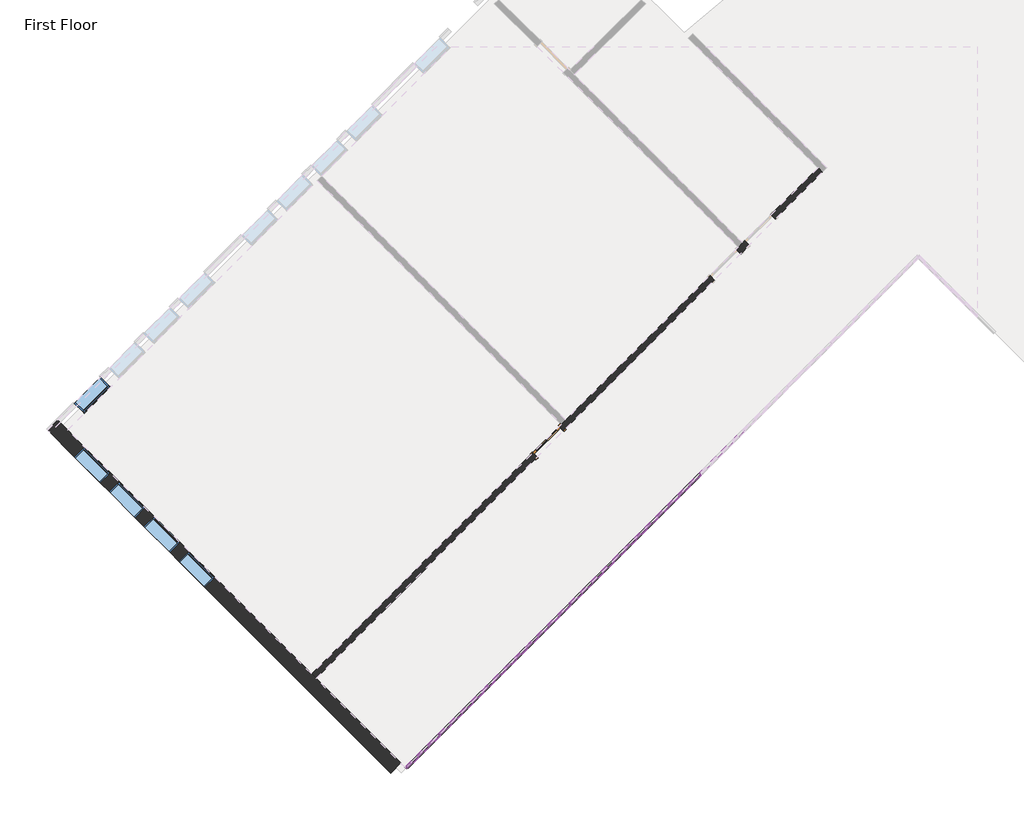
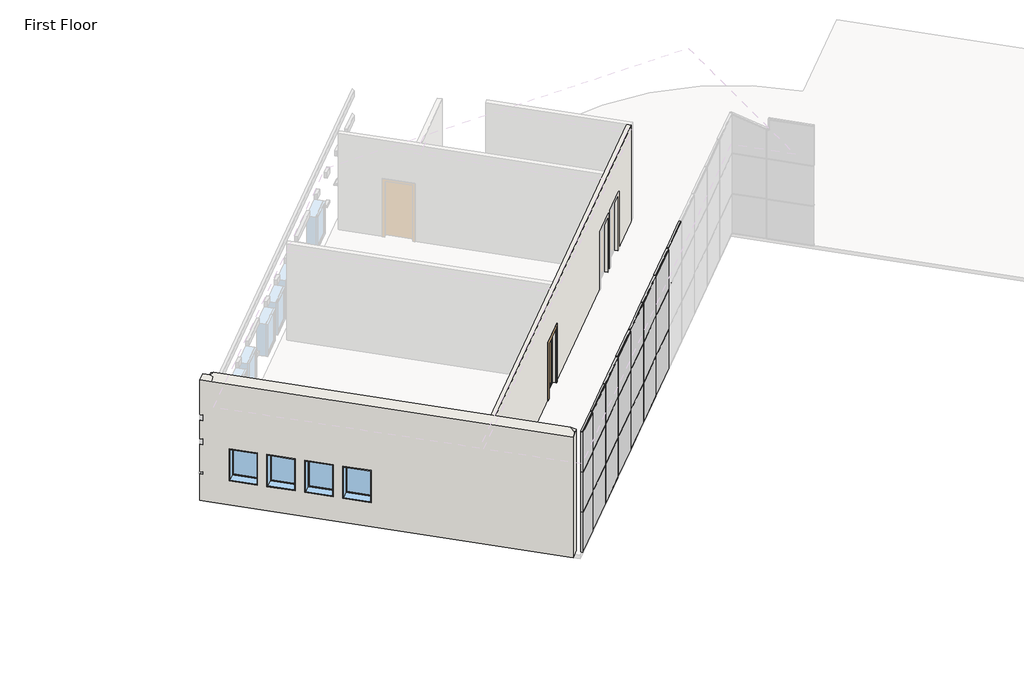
# One storey, part 1 of 5: 55 members, 21 plates, 5 windows, 2 walls, 1 door.
"""IFC4 building model written with IfcOpenShell, lengths in millimetres."""

from ifc_helpers import new_model, si_unit, origin, place, context, project, spatial, faceted_brep, transform, mapped, element, save
from components import door_b81abb0e, member_bd80eb51, member_155beb68, member_42be4715, member_6121af53, member_a3731390, member_b87a50da, system_panel_glazed_da345f4e, system_panel_glazed_b4114ee2, system_panel_glazed_f1e4c5b0, system_panel_glazed_dc791129, system_panel_solid_2f1037e2, system_panel_solid_6e0f4c8d, window_15c49d37, window_0e2fc6ce

model = new_model("IFC4")

# Units and contexts
model_context = context("Model", 3, world=origin())
ifc_project = project(units=[si_unit("LENGTHUNIT", "METRE", prefix="MILLI")], contexts=[model_context])

# Site, building, storey
site = spatial("IfcSite", under=ifc_project)
building = spatial("IfcBuilding", under=site)
storey = spatial("IfcBuildingStorey", under=building, Name="First Floor", Elevation=0.0)

# Door
placement = place(None, origin())
door_shape = door_b81abb0e(model_context)
element("IfcDoor", 1, ObjectType="Single-Glass 1 : 36\" x 84\"", at=placement, inside=storey, context=model_context, shape_type="MappedRepresentation", body=[
    mapped(door_shape, transform((-12027.7718255, -1647.4849877, 0.0), x_axis=(0.7071067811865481, 0.7071067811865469, 0.0), y_axis=(-0.7071067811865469, 0.7071067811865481, 0.0), z_axis=(0.0, 0.0, 1.0))),
])

# Members
member_shape = member_bd80eb51(model_context)
element("IfcMember", 2, ObjectType="Rectangular Mullion : 1.5\" x 2.5\" Rectangular", at=placement, inside=storey, context=model_context, shape_type="MappedRepresentation", body=[
    mapped(member_shape, transform((-15523.4543029, -9702.8925106, 4572.0), x_axis=(0.0, 0.0, 1.0), y_axis=(-0.7071067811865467, 0.7071067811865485, 0.0), z_axis=(-0.7071067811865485, -0.7071067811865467, 0.0))),
])
member_2_shape = member_155beb68(model_context)
element("IfcMember", 3, ObjectType="Rectangular Mullion : 1.5\" x 2.5\" Rectangular", at=placement, inside=storey, context=model_context, shape_type="MappedRepresentation", body=[
    mapped(member_2_shape, transform((-8256.1820369, -2435.6202446, 0.0), x_axis=(-0.7071067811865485, -0.7071067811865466, 0.0), y_axis=(-0.7071067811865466, 0.7071067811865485, 0.0), z_axis=(0.0, 0.0, -1.0))),
])
element("IfcMember", 4, ObjectType="Rectangular Mullion : 1.5\" x 2.5\" Rectangular", at=placement, inside=storey, context=model_context, shape_type="MappedRepresentation", body=[
    mapped(member_2_shape, transform((-9333.8127715, -3513.2509792, 0.0), x_axis=(-0.7071067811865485, -0.7071067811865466, 0.0), y_axis=(-0.7071067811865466, 0.7071067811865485, 0.0), z_axis=(0.0, 0.0, -1.0))),
])
element("IfcMember", 5, ObjectType="Rectangular Mullion : 1.5\" x 2.5\" Rectangular", at=placement, inside=storey, context=model_context, shape_type="MappedRepresentation", body=[
    mapped(member_2_shape, transform((-10411.443506, -4590.8817137, 0.0), x_axis=(-0.7071067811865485, -0.7071067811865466, 0.0), y_axis=(-0.7071067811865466, 0.7071067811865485, 0.0), z_axis=(0.0, 0.0, -1.0))),
])
element("IfcMember", 6, ObjectType="Rectangular Mullion : 1.5\" x 2.5\" Rectangular", at=placement, inside=storey, context=model_context, shape_type="MappedRepresentation", body=[
    mapped(member_2_shape, transform((-11489.0742405, -5668.5124482, 0.0), x_axis=(-0.7071067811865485, -0.7071067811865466, 0.0), y_axis=(-0.7071067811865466, 0.7071067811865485, 0.0), z_axis=(0.0, 0.0, -1.0))),
])
element("IfcMember", 7, ObjectType="Rectangular Mullion : 1.5\" x 2.5\" Rectangular", at=placement, inside=storey, context=model_context, shape_type="MappedRepresentation", body=[
    mapped(member_2_shape, transform((-12566.7049751, -6746.1431827, 0.0), x_axis=(-0.7071067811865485, -0.7071067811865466, 0.0), y_axis=(-0.7071067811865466, 0.7071067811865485, 0.0), z_axis=(0.0, 0.0, -1.0))),
])
element("IfcMember", 8, ObjectType="Rectangular Mullion : 1.5\" x 2.5\" Rectangular", at=placement, inside=storey, context=model_context, shape_type="MappedRepresentation", body=[
    mapped(member_2_shape, transform((-13644.3357096, -7823.7739173, 0.0), x_axis=(-0.7071067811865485, -0.7071067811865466, 0.0), y_axis=(-0.7071067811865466, 0.7071067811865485, 0.0), z_axis=(0.0, 0.0, -1.0))),
])
element("IfcMember", 9, ObjectType="Rectangular Mullion : 1.5\" x 2.5\" Rectangular", at=placement, inside=storey, context=model_context, shape_type="MappedRepresentation", body=[
    mapped(member_2_shape, transform((-14721.9664441, -8901.4046518, 0.0), x_axis=(-0.7071067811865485, -0.7071067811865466, 0.0), y_axis=(-0.7071067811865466, 0.7071067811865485, 0.0), z_axis=(0.0, 0.0, -1.0))),
])
element("IfcMember", 10, ObjectType="Rectangular Mullion : 1.5\" x 2.5\" Rectangular", at=placement, inside=storey, context=model_context, shape_type="MappedRepresentation", body=[
    mapped(member_2_shape, transform((-8256.1820369, -2435.6202446, 3048.0), x_axis=(-0.7071067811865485, -0.7071067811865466, 0.0), y_axis=(-0.7071067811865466, 0.7071067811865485, 0.0), z_axis=(0.0, 0.0, -1.0))),
])
element("IfcMember", 11, ObjectType="Rectangular Mullion : 1.5\" x 2.5\" Rectangular", at=placement, inside=storey, context=model_context, shape_type="MappedRepresentation", body=[
    mapped(member_2_shape, transform((-9333.8127715, -3513.2509792, 3048.0), x_axis=(-0.7071067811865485, -0.7071067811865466, 0.0), y_axis=(-0.7071067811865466, 0.7071067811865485, 0.0), z_axis=(0.0, 0.0, -1.0))),
])
element("IfcMember", 12, ObjectType="Rectangular Mullion : 1.5\" x 2.5\" Rectangular", at=placement, inside=storey, context=model_context, shape_type="MappedRepresentation", body=[
    mapped(member_2_shape, transform((-10411.443506, -4590.8817137, 3048.0), x_axis=(-0.7071067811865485, -0.7071067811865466, 0.0), y_axis=(-0.7071067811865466, 0.7071067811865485, 0.0), z_axis=(0.0, 0.0, -1.0))),
])
element("IfcMember", 13, ObjectType="Rectangular Mullion : 1.5\" x 2.5\" Rectangular", at=placement, inside=storey, context=model_context, shape_type="MappedRepresentation", body=[
    mapped(member_2_shape, transform((-11489.0742405, -5668.5124482, 3048.0), x_axis=(-0.7071067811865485, -0.7071067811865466, 0.0), y_axis=(-0.7071067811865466, 0.7071067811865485, 0.0), z_axis=(0.0, 0.0, -1.0))),
])
element("IfcMember", 14, ObjectType="Rectangular Mullion : 1.5\" x 2.5\" Rectangular", at=placement, inside=storey, context=model_context, shape_type="MappedRepresentation", body=[
    mapped(member_2_shape, transform((-12566.7049751, -6746.1431827, 3048.0), x_axis=(-0.7071067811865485, -0.7071067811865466, 0.0), y_axis=(-0.7071067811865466, 0.7071067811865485, 0.0), z_axis=(0.0, 0.0, -1.0))),
])
element("IfcMember", 15, ObjectType="Rectangular Mullion : 1.5\" x 2.5\" Rectangular", at=placement, inside=storey, context=model_context, shape_type="MappedRepresentation", body=[
    mapped(member_2_shape, transform((-13644.3357096, -7823.7739173, 3048.0), x_axis=(-0.7071067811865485, -0.7071067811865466, 0.0), y_axis=(-0.7071067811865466, 0.7071067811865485, 0.0), z_axis=(0.0, 0.0, -1.0))),
])
element("IfcMember", 16, ObjectType="Rectangular Mullion : 1.5\" x 2.5\" Rectangular", at=placement, inside=storey, context=model_context, shape_type="MappedRepresentation", body=[
    mapped(member_2_shape, transform((-14721.9664441, -8901.4046518, 3048.0), x_axis=(-0.7071067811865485, -0.7071067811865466, 0.0), y_axis=(-0.7071067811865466, 0.7071067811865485, 0.0), z_axis=(0.0, 0.0, -1.0))),
])
element("IfcMember", 17, ObjectType="Rectangular Mullion : 1.5\" x 2.5\" Rectangular", at=placement, inside=storey, context=model_context, shape_type="MappedRepresentation", body=[
    mapped(member_2_shape, transform((-8256.1820369, -2435.6202446, 1524.0), x_axis=(-0.7071067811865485, -0.7071067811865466, 0.0), y_axis=(-0.7071067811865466, 0.7071067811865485, 0.0), z_axis=(0.0, 0.0, -1.0))),
])
element("IfcMember", 18, ObjectType="Rectangular Mullion : 1.5\" x 2.5\" Rectangular", at=placement, inside=storey, context=model_context, shape_type="MappedRepresentation", body=[
    mapped(member_2_shape, transform((-9333.8127715, -3513.2509792, 1524.0), x_axis=(-0.7071067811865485, -0.7071067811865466, 0.0), y_axis=(-0.7071067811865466, 0.7071067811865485, 0.0), z_axis=(0.0, 0.0, -1.0))),
])
element("IfcMember", 19, ObjectType="Rectangular Mullion : 1.5\" x 2.5\" Rectangular", at=placement, inside=storey, context=model_context, shape_type="MappedRepresentation", body=[
    mapped(member_2_shape, transform((-10411.443506, -4590.8817137, 1524.0), x_axis=(-0.7071067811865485, -0.7071067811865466, 0.0), y_axis=(-0.7071067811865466, 0.7071067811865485, 0.0), z_axis=(0.0, 0.0, -1.0))),
])
element("IfcMember", 20, ObjectType="Rectangular Mullion : 1.5\" x 2.5\" Rectangular", at=placement, inside=storey, context=model_context, shape_type="MappedRepresentation", body=[
    mapped(member_2_shape, transform((-11489.0742405, -5668.5124482, 1524.0), x_axis=(-0.7071067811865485, -0.7071067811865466, 0.0), y_axis=(-0.7071067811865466, 0.7071067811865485, 0.0), z_axis=(0.0, 0.0, -1.0))),
])
element("IfcMember", 21, ObjectType="Rectangular Mullion : 1.5\" x 2.5\" Rectangular", at=placement, inside=storey, context=model_context, shape_type="MappedRepresentation", body=[
    mapped(member_2_shape, transform((-12566.7049751, -6746.1431827, 1524.0), x_axis=(-0.7071067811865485, -0.7071067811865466, 0.0), y_axis=(-0.7071067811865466, 0.7071067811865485, 0.0), z_axis=(0.0, 0.0, -1.0))),
])
element("IfcMember", 22, ObjectType="Rectangular Mullion : 1.5\" x 2.5\" Rectangular", at=placement, inside=storey, context=model_context, shape_type="MappedRepresentation", body=[
    mapped(member_2_shape, transform((-13644.3357096, -7823.7739173, 1524.0), x_axis=(-0.7071067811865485, -0.7071067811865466, 0.0), y_axis=(-0.7071067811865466, 0.7071067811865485, 0.0), z_axis=(0.0, 0.0, -1.0))),
])
element("IfcMember", 23, ObjectType="Rectangular Mullion : 1.5\" x 2.5\" Rectangular", at=placement, inside=storey, context=model_context, shape_type="MappedRepresentation", body=[
    mapped(member_2_shape, transform((-14721.9664441, -8901.4046518, 1524.0), x_axis=(-0.7071067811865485, -0.7071067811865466, 0.0), y_axis=(-0.7071067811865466, 0.7071067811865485, 0.0), z_axis=(0.0, 0.0, -1.0))),
])
member_3_shape = member_42be4715(model_context)
element("IfcMember", 24, ObjectType="Rectangular Mullion : 1.5\" x 2.5\" Rectangular", at=placement, inside=storey, context=model_context, shape_type="MappedRepresentation", body=[
    mapped(member_3_shape, transform((-8242.7116528, -2422.1498604, 1524.0), x_axis=(0.0, 0.0, 1.0), y_axis=(-0.7071067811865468, 0.7071067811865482, 0.0), z_axis=(-0.7071067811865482, -0.7071067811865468, 0.0))),
])
element("IfcMember", 25, ObjectType="Rectangular Mullion : 1.5\" x 2.5\" Rectangular", at=placement, inside=storey, context=model_context, shape_type="MappedRepresentation", body=[
    mapped(member_3_shape, transform((-9320.3423873, -3499.780595, 1524.0), x_axis=(0.0, 0.0, 1.0), y_axis=(-0.7071067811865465, 0.7071067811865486, 0.0), z_axis=(-0.7071067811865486, -0.7071067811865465, 0.0))),
])
element("IfcMember", 26, ObjectType="Rectangular Mullion : 1.5\" x 2.5\" Rectangular", at=placement, inside=storey, context=model_context, shape_type="MappedRepresentation", body=[
    mapped(member_3_shape, transform((-10397.9731218, -4577.4113295, 1524.0), x_axis=(0.0, 0.0, 1.0), y_axis=(-0.7071067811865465, 0.7071067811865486, 0.0), z_axis=(-0.7071067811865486, -0.7071067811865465, 0.0))),
])
element("IfcMember", 27, ObjectType="Rectangular Mullion : 1.5\" x 2.5\" Rectangular", at=placement, inside=storey, context=model_context, shape_type="MappedRepresentation", body=[
    mapped(member_3_shape, transform((-11475.6038564, -5655.042064, 1524.0), x_axis=(0.0, 0.0, 1.0), y_axis=(-0.7071067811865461, 0.707106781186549, 0.0), z_axis=(-0.7071067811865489, -0.707106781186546, 0.0))),
])
element("IfcMember", 28, ObjectType="Rectangular Mullion : 1.5\" x 2.5\" Rectangular", at=placement, inside=storey, context=model_context, shape_type="MappedRepresentation", body=[
    mapped(member_3_shape, transform((-12553.2345909, -6732.6727986, 1524.0), x_axis=(0.0, 0.0, 1.0), y_axis=(-0.7071067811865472, 0.7071067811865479, 0.0), z_axis=(-0.7071067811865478, -0.7071067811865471, 0.0))),
])
element("IfcMember", 29, ObjectType="Rectangular Mullion : 1.5\" x 2.5\" Rectangular", at=placement, inside=storey, context=model_context, shape_type="MappedRepresentation", body=[
    mapped(member_3_shape, transform((-13630.8653254, -7810.3035331, 1524.0), x_axis=(0.0, 0.0, 1.0), y_axis=(-0.7071067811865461, 0.707106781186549, 0.0), z_axis=(-0.707106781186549, -0.7071067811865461, 0.0))),
])
element("IfcMember", 30, ObjectType="Rectangular Mullion : 1.5\" x 2.5\" Rectangular", at=placement, inside=storey, context=model_context, shape_type="MappedRepresentation", body=[
    mapped(member_3_shape, transform((-14708.4960599, -8887.9342676, 1524.0), x_axis=(0.0, 0.0, 1.0), y_axis=(-0.7071067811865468, 0.7071067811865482, 0.0), z_axis=(-0.7071067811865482, -0.7071067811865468, 0.0))),
])
element("IfcMember", 31, ObjectType="Rectangular Mullion : 1.5\" x 2.5\" Rectangular", at=placement, inside=storey, context=model_context, shape_type="MappedRepresentation", body=[
    mapped(member_3_shape, transform((-8242.7116528, -2422.1498604, 3048.0), x_axis=(0.0, 0.0, 1.0), y_axis=(-0.7071067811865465, 0.7071067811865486, 0.0), z_axis=(-0.7071067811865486, -0.7071067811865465, 0.0))),
])
element("IfcMember", 32, ObjectType="Rectangular Mullion : 1.5\" x 2.5\" Rectangular", at=placement, inside=storey, context=model_context, shape_type="MappedRepresentation", body=[
    mapped(member_3_shape, transform((-9320.3423873, -3499.780595, 3048.0), x_axis=(0.0, 0.0, 1.0), y_axis=(-0.7071067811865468, 0.7071067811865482, 0.0), z_axis=(-0.7071067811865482, -0.7071067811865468, 0.0))),
])
element("IfcMember", 33, ObjectType="Rectangular Mullion : 1.5\" x 2.5\" Rectangular", at=placement, inside=storey, context=model_context, shape_type="MappedRepresentation", body=[
    mapped(member_3_shape, transform((-10397.9731218, -4577.4113295, 3048.0), x_axis=(0.0, 0.0, 1.0), y_axis=(-0.7071067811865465, 0.7071067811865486, 0.0), z_axis=(-0.7071067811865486, -0.7071067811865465, 0.0))),
])
element("IfcMember", 34, ObjectType="Rectangular Mullion : 1.5\" x 2.5\" Rectangular", at=placement, inside=storey, context=model_context, shape_type="MappedRepresentation", body=[
    mapped(member_3_shape, transform((-11475.6038564, -5655.042064, 3048.0), x_axis=(0.0, 0.0, 1.0), y_axis=(-0.7071067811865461, 0.707106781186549, 0.0), z_axis=(-0.7071067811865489, -0.707106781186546, 0.0))),
])
element("IfcMember", 35, ObjectType="Rectangular Mullion : 1.5\" x 2.5\" Rectangular", at=placement, inside=storey, context=model_context, shape_type="MappedRepresentation", body=[
    mapped(member_3_shape, transform((-12553.2345909, -6732.6727986, 3048.0), x_axis=(0.0, 0.0, 1.0), y_axis=(-0.7071067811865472, 0.7071067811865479, 0.0), z_axis=(-0.7071067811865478, -0.7071067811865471, 0.0))),
])
element("IfcMember", 36, ObjectType="Rectangular Mullion : 1.5\" x 2.5\" Rectangular", at=placement, inside=storey, context=model_context, shape_type="MappedRepresentation", body=[
    mapped(member_3_shape, transform((-13630.8653254, -7810.3035331, 3048.0), x_axis=(0.0, 0.0, 1.0), y_axis=(-0.7071067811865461, 0.707106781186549, 0.0), z_axis=(-0.707106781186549, -0.7071067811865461, 0.0))),
])
element("IfcMember", 37, ObjectType="Rectangular Mullion : 1.5\" x 2.5\" Rectangular", at=placement, inside=storey, context=model_context, shape_type="MappedRepresentation", body=[
    mapped(member_3_shape, transform((-14708.4960599, -8887.9342676, 3048.0), x_axis=(0.0, 0.0, 1.0), y_axis=(-0.7071067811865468, 0.7071067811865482, 0.0), z_axis=(-0.7071067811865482, -0.7071067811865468, 0.0))),
])
member_4_shape = member_6121af53(model_context)
element("IfcMember", 38, ObjectType="Rectangular Mullion : 1.5\" x 2.5\" Rectangular", at=placement, inside=storey, context=model_context, shape_type="MappedRepresentation", body=[
    mapped(member_4_shape, transform((-8269.6524211, -2449.0906288, 0.0), x_axis=(0.0, 0.0, -1.0), y_axis=(-0.7071067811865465, 0.7071067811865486, 0.0), z_axis=(0.7071067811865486, 0.7071067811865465, 0.0))),
])
element("IfcMember", 39, ObjectType="Rectangular Mullion : 1.5\" x 2.5\" Rectangular", at=placement, inside=storey, context=model_context, shape_type="MappedRepresentation", body=[
    mapped(member_4_shape, transform((-9347.2831557, -3526.7213633, 0.0), x_axis=(0.0, 0.0, -1.0), y_axis=(-0.7071067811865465, 0.7071067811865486, 0.0), z_axis=(0.7071067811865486, 0.7071067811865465, 0.0))),
])
element("IfcMember", 40, ObjectType="Rectangular Mullion : 1.5\" x 2.5\" Rectangular", at=placement, inside=storey, context=model_context, shape_type="MappedRepresentation", body=[
    mapped(member_4_shape, transform((-10424.9138902, -4604.3520979, 0.0), x_axis=(0.0, 0.0, -1.0), y_axis=(-0.7071067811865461, 0.707106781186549, 0.0), z_axis=(0.7071067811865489, 0.707106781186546, 0.0))),
])
element("IfcMember", 41, ObjectType="Rectangular Mullion : 1.5\" x 2.5\" Rectangular", at=placement, inside=storey, context=model_context, shape_type="MappedRepresentation", body=[
    mapped(member_4_shape, transform((-11502.5446247, -5681.9828324, 0.0), x_axis=(0.0, 0.0, -1.0), y_axis=(-0.7071067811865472, 0.7071067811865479, 0.0), z_axis=(0.7071067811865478, 0.7071067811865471, 0.0))),
])
element("IfcMember", 42, ObjectType="Rectangular Mullion : 1.5\" x 2.5\" Rectangular", at=placement, inside=storey, context=model_context, shape_type="MappedRepresentation", body=[
    mapped(member_4_shape, transform((-12580.1753592, -6759.6135669, 0.0), x_axis=(0.0, 0.0, -1.0), y_axis=(-0.7071067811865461, 0.707106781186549, 0.0), z_axis=(0.707106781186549, 0.7071067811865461, 0.0))),
])
element("IfcMember", 43, ObjectType="Rectangular Mullion : 1.5\" x 2.5\" Rectangular", at=placement, inside=storey, context=model_context, shape_type="MappedRepresentation", body=[
    mapped(member_4_shape, transform((-13657.8060938, -7837.2443014, 0.0), x_axis=(0.0, 0.0, -1.0), y_axis=(-0.7071067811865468, 0.7071067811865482, 0.0), z_axis=(0.7071067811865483, 0.7071067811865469, 0.0))),
])
element("IfcMember", 44, ObjectType="Rectangular Mullion : 1.5\" x 2.5\" Rectangular", at=placement, inside=storey, context=model_context, shape_type="MappedRepresentation", body=[
    mapped(member_shape, transform((-14735.4368283, -8914.875036, 0.0), x_axis=(0.0, 0.0, -1.0), y_axis=(-0.7071067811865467, 0.7071067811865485, 0.0), z_axis=(0.7071067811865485, 0.7071067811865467, 0.0))),
])
element("IfcMember", 45, ObjectType="Rectangular Mullion : 1.5\" x 2.5\" Rectangular", at=placement, inside=storey, context=model_context, shape_type="MappedRepresentation", body=[
    mapped(member_4_shape, transform((-8242.7116528, -2422.1498604, 4572.0), x_axis=(0.0, 0.0, 1.0), y_axis=(-0.7071067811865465, 0.7071067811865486, 0.0), z_axis=(-0.7071067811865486, -0.7071067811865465, 0.0))),
])
element("IfcMember", 46, ObjectType="Rectangular Mullion : 1.5\" x 2.5\" Rectangular", at=placement, inside=storey, context=model_context, shape_type="MappedRepresentation", body=[
    mapped(member_4_shape, transform((-9320.3423873, -3499.780595, 4572.0), x_axis=(0.0, 0.0, 1.0), y_axis=(-0.7071067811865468, 0.7071067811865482, 0.0), z_axis=(-0.7071067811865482, -0.7071067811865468, 0.0))),
])
element("IfcMember", 47, ObjectType="Rectangular Mullion : 1.5\" x 2.5\" Rectangular", at=placement, inside=storey, context=model_context, shape_type="MappedRepresentation", body=[
    mapped(member_4_shape, transform((-10397.9731218, -4577.4113295, 4572.0), x_axis=(0.0, 0.0, 1.0), y_axis=(-0.7071067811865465, 0.7071067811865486, 0.0), z_axis=(-0.7071067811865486, -0.7071067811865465, 0.0))),
])
element("IfcMember", 48, ObjectType="Rectangular Mullion : 1.5\" x 2.5\" Rectangular", at=placement, inside=storey, context=model_context, shape_type="MappedRepresentation", body=[
    mapped(member_4_shape, transform((-11475.6038564, -5655.042064, 4572.0), x_axis=(0.0, 0.0, 1.0), y_axis=(-0.7071067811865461, 0.707106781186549, 0.0), z_axis=(-0.7071067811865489, -0.707106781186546, 0.0))),
])
element("IfcMember", 49, ObjectType="Rectangular Mullion : 1.5\" x 2.5\" Rectangular", at=placement, inside=storey, context=model_context, shape_type="MappedRepresentation", body=[
    mapped(member_4_shape, transform((-12553.2345909, -6732.6727986, 4572.0), x_axis=(0.0, 0.0, 1.0), y_axis=(-0.7071067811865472, 0.7071067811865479, 0.0), z_axis=(-0.7071067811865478, -0.7071067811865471, 0.0))),
])
element("IfcMember", 50, ObjectType="Rectangular Mullion : 1.5\" x 2.5\" Rectangular", at=placement, inside=storey, context=model_context, shape_type="MappedRepresentation", body=[
    mapped(member_4_shape, transform((-13630.8653254, -7810.3035331, 4572.0), x_axis=(0.0, 0.0, 1.0), y_axis=(-0.7071067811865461, 0.707106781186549, 0.0), z_axis=(-0.707106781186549, -0.7071067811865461, 0.0))),
])
element("IfcMember", 51, ObjectType="Rectangular Mullion : 1.5\" x 2.5\" Rectangular", at=placement, inside=storey, context=model_context, shape_type="MappedRepresentation", body=[
    mapped(member_4_shape, transform((-14708.4960599, -8887.9342676, 4572.0), x_axis=(0.0, 0.0, 1.0), y_axis=(-0.7071067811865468, 0.7071067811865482, 0.0), z_axis=(-0.7071067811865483, -0.7071067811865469, 0.0))),
])
member_5_shape = member_a3731390(model_context)
element("IfcMember", 52, ObjectType="Rectangular Mullion : 1.5\" x 2.5\" Rectangular", at=placement, inside=storey, context=model_context, shape_type="MappedRepresentation", body=[
    mapped(member_5_shape, transform((-15523.4543029, -9702.8925106, 1524.0), x_axis=(0.0, 0.0, 1.0), y_axis=(-0.7071067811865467, 0.7071067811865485, 0.0), z_axis=(-0.7071067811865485, -0.7071067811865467, 0.0))),
])
element("IfcMember", 53, ObjectType="Rectangular Mullion : 1.5\" x 2.5\" Rectangular", at=placement, inside=storey, context=model_context, shape_type="MappedRepresentation", body=[
    mapped(member_5_shape, transform((-15523.4543029, -9702.8925106, 3048.0), x_axis=(0.0, 0.0, 1.0), y_axis=(-0.7071067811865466, 0.7071067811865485, 0.0), z_axis=(-0.7071067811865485, -0.7071067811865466, 0.0))),
])
member_6_shape = member_b87a50da(model_context)
element("IfcMember", 54, ObjectType="Rectangular Mullion : 1.5\" x 2.5\" Rectangular", at=placement, inside=storey, context=model_context, shape_type="MappedRepresentation", body=[
    mapped(member_6_shape, transform((-15550.3950713, -9729.833279, 0.0), x_axis=(-0.7071067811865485, -0.7071067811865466, 0.0), y_axis=(-0.7071067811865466, 0.7071067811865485, 0.0), z_axis=(0.0, 0.0, -1.0))),
])
element("IfcMember", 55, ObjectType="Rectangular Mullion : 1.5\" x 2.5\" Rectangular", at=placement, inside=storey, context=model_context, shape_type="MappedRepresentation", body=[
    mapped(member_6_shape, transform((-15550.3950713, -9729.833279, 1524.0), x_axis=(-0.7071067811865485, -0.7071067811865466, 0.0), y_axis=(-0.7071067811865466, 0.7071067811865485, 0.0), z_axis=(0.0, 0.0, -1.0))),
])
element("IfcMember", 56, ObjectType="Rectangular Mullion : 1.5\" x 2.5\" Rectangular", at=placement, inside=storey, context=model_context, shape_type="MappedRepresentation", body=[
    mapped(member_6_shape, transform((-15550.3950713, -9729.833279, 3048.0), x_axis=(-0.7071067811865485, -0.7071067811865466, 0.0), y_axis=(-0.7071067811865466, 0.7071067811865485, 0.0), z_axis=(0.0, 0.0, -1.0))),
])

# Plates
system_panel_glazed_shape = system_panel_glazed_da345f4e(model_context)
element("IfcPlate", 57, ObjectType="System Panel : Glazed", at=placement, inside=storey, context=model_context, shape_type="MappedRepresentation", body=[
    mapped(system_panel_glazed_shape, transform((-8794.9974042, -2974.4356119, 38.1), x_axis=(-0.7071067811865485, -0.7071067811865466, 0.0), y_axis=(0.7071067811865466, -0.7071067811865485, 0.0), z_axis=(0.0, 0.0, 1.0))),
])
element("IfcPlate", 58, ObjectType="System Panel : Glazed", at=placement, inside=storey, context=model_context, shape_type="MappedRepresentation", body=[
    mapped(system_panel_glazed_shape, transform((-9872.6281387, -4052.0663464, 38.1), x_axis=(-0.7071067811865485, -0.7071067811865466, 0.0), y_axis=(0.7071067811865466, -0.7071067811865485, 0.0), z_axis=(0.0, 0.0, 1.0))),
])
element("IfcPlate", 59, ObjectType="System Panel : Glazed", at=placement, inside=storey, context=model_context, shape_type="MappedRepresentation", body=[
    mapped(system_panel_glazed_shape, transform((-10950.2588733, -5129.6970809, 38.1), x_axis=(-0.7071067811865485, -0.7071067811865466, 0.0), y_axis=(0.7071067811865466, -0.7071067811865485, 0.0), z_axis=(0.0, 0.0, 1.0))),
])
element("IfcPlate", 60, ObjectType="System Panel : Glazed", at=placement, inside=storey, context=model_context, shape_type="MappedRepresentation", body=[
    mapped(system_panel_glazed_shape, transform((-12027.8896078, -6207.3278155, 38.1), x_axis=(-0.7071067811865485, -0.7071067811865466, 0.0), y_axis=(0.7071067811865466, -0.7071067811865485, 0.0), z_axis=(0.0, 0.0, 1.0))),
])
element("IfcPlate", 61, ObjectType="System Panel : Glazed", at=placement, inside=storey, context=model_context, shape_type="MappedRepresentation", body=[
    mapped(system_panel_glazed_shape, transform((-13105.5203423, -7284.95855, 38.1), x_axis=(-0.7071067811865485, -0.7071067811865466, 0.0), y_axis=(0.7071067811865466, -0.7071067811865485, 0.0), z_axis=(0.0, 0.0, 1.0))),
])
element("IfcPlate", 62, ObjectType="System Panel : Glazed", at=placement, inside=storey, context=model_context, shape_type="MappedRepresentation", body=[
    mapped(system_panel_glazed_shape, transform((-14183.1510769, -8362.5892845, 38.1), x_axis=(-0.7071067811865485, -0.7071067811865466, 0.0), y_axis=(0.7071067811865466, -0.7071067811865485, 0.0), z_axis=(0.0, 0.0, 1.0))),
])
system_panel_glazed_2_shape = system_panel_glazed_b4114ee2(model_context)
element("IfcPlate", 63, ObjectType="System Panel : Glazed", at=placement, inside=storey, context=model_context, shape_type="MappedRepresentation", body=[
    mapped(system_panel_glazed_2_shape, transform((-15129.4455656, -9308.8837733, 38.1), x_axis=(-0.7071067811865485, -0.7071067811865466, 0.0), y_axis=(0.7071067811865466, -0.7071067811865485, 0.0), z_axis=(0.0, 0.0, 1.0))),
])
system_panel_glazed_3_shape = system_panel_glazed_f1e4c5b0(model_context)
element("IfcPlate", 64, ObjectType="System Panel : Glazed", at=placement, inside=storey, context=model_context, shape_type="MappedRepresentation", body=[
    mapped(system_panel_glazed_3_shape, transform((-8794.9974042, -2974.4356119, 1543.05), x_axis=(-0.7071067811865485, -0.7071067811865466, 0.0), y_axis=(0.7071067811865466, -0.7071067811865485, 0.0), z_axis=(0.0, 0.0, 1.0))),
])
element("IfcPlate", 65, ObjectType="System Panel : Glazed", at=placement, inside=storey, context=model_context, shape_type="MappedRepresentation", body=[
    mapped(system_panel_glazed_3_shape, transform((-9872.6281387, -4052.0663464, 1543.05), x_axis=(-0.7071067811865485, -0.7071067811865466, 0.0), y_axis=(0.7071067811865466, -0.7071067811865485, 0.0), z_axis=(0.0, 0.0, 1.0))),
])
element("IfcPlate", 66, ObjectType="System Panel : Glazed", at=placement, inside=storey, context=model_context, shape_type="MappedRepresentation", body=[
    mapped(system_panel_glazed_3_shape, transform((-10950.2588733, -5129.6970809, 1543.05), x_axis=(-0.7071067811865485, -0.7071067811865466, 0.0), y_axis=(0.7071067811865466, -0.7071067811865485, 0.0), z_axis=(0.0, 0.0, 1.0))),
])
element("IfcPlate", 67, ObjectType="System Panel : Glazed", at=placement, inside=storey, context=model_context, shape_type="MappedRepresentation", body=[
    mapped(system_panel_glazed_3_shape, transform((-12027.8896078, -6207.3278155, 1543.05), x_axis=(-0.7071067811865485, -0.7071067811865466, 0.0), y_axis=(0.7071067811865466, -0.7071067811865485, 0.0), z_axis=(0.0, 0.0, 1.0))),
])
element("IfcPlate", 68, ObjectType="System Panel : Glazed", at=placement, inside=storey, context=model_context, shape_type="MappedRepresentation", body=[
    mapped(system_panel_glazed_3_shape, transform((-13105.5203423, -7284.95855, 1543.05), x_axis=(-0.7071067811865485, -0.7071067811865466, 0.0), y_axis=(0.7071067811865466, -0.7071067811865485, 0.0), z_axis=(0.0, 0.0, 1.0))),
])
element("IfcPlate", 69, ObjectType="System Panel : Glazed", at=placement, inside=storey, context=model_context, shape_type="MappedRepresentation", body=[
    mapped(system_panel_glazed_3_shape, transform((-14183.1510769, -8362.5892845, 1543.05), x_axis=(-0.7071067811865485, -0.7071067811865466, 0.0), y_axis=(0.7071067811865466, -0.7071067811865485, 0.0), z_axis=(0.0, 0.0, 1.0))),
])
system_panel_glazed_4_shape = system_panel_glazed_dc791129(model_context)
element("IfcPlate", 70, ObjectType="System Panel : Glazed", at=placement, inside=storey, context=model_context, shape_type="MappedRepresentation", body=[
    mapped(system_panel_glazed_4_shape, transform((-15129.4455656, -9308.8837733, 1543.05), x_axis=(-0.7071067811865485, -0.7071067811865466, 0.0), y_axis=(0.7071067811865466, -0.7071067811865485, 0.0), z_axis=(0.0, 0.0, 1.0))),
])
system_panel_solid_shape = system_panel_solid_2f1037e2(model_context)
element("IfcPlate", 71, ObjectType="System Panel : Solid", at=placement, inside=storey, context=model_context, shape_type="MappedRepresentation", body=[
    mapped(system_panel_solid_shape, transform((-8794.9974042, -2974.4356119, 3067.05), x_axis=(-0.7071067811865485, -0.7071067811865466, 0.0), y_axis=(0.7071067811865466, -0.7071067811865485, 0.0), z_axis=(0.0, 0.0, 1.0))),
])
element("IfcPlate", 72, ObjectType="System Panel : Solid", at=placement, inside=storey, context=model_context, shape_type="MappedRepresentation", body=[
    mapped(system_panel_solid_shape, transform((-9872.6281387, -4052.0663464, 3067.05), x_axis=(-0.7071067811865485, -0.7071067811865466, 0.0), y_axis=(0.7071067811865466, -0.7071067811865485, 0.0), z_axis=(0.0, 0.0, 1.0))),
])
element("IfcPlate", 73, ObjectType="System Panel : Solid", at=placement, inside=storey, context=model_context, shape_type="MappedRepresentation", body=[
    mapped(system_panel_solid_shape, transform((-10950.2588733, -5129.6970809, 3067.05), x_axis=(-0.7071067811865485, -0.7071067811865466, 0.0), y_axis=(0.7071067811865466, -0.7071067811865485, 0.0), z_axis=(0.0, 0.0, 1.0))),
])
element("IfcPlate", 74, ObjectType="System Panel : Solid", at=placement, inside=storey, context=model_context, shape_type="MappedRepresentation", body=[
    mapped(system_panel_solid_shape, transform((-12027.8896078, -6207.3278155, 3067.05), x_axis=(-0.7071067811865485, -0.7071067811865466, 0.0), y_axis=(0.7071067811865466, -0.7071067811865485, 0.0), z_axis=(0.0, 0.0, 1.0))),
])
element("IfcPlate", 75, ObjectType="System Panel : Solid", at=placement, inside=storey, context=model_context, shape_type="MappedRepresentation", body=[
    mapped(system_panel_solid_shape, transform((-13105.5203423, -7284.95855, 3067.05), x_axis=(-0.7071067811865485, -0.7071067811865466, 0.0), y_axis=(0.7071067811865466, -0.7071067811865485, 0.0), z_axis=(0.0, 0.0, 1.0))),
])
element("IfcPlate", 76, ObjectType="System Panel : Solid", at=placement, inside=storey, context=model_context, shape_type="MappedRepresentation", body=[
    mapped(system_panel_solid_shape, transform((-14183.1510769, -8362.5892845, 3067.05), x_axis=(-0.7071067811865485, -0.7071067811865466, 0.0), y_axis=(0.7071067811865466, -0.7071067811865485, 0.0), z_axis=(0.0, 0.0, 1.0))),
])
system_panel_solid_2_shape = system_panel_solid_6e0f4c8d(model_context)
element("IfcPlate", 77, ObjectType="System Panel : Solid", at=placement, inside=storey, context=model_context, shape_type="MappedRepresentation", body=[
    mapped(system_panel_solid_2_shape, transform((-15129.4455656, -9308.8837733, 3067.05), x_axis=(-0.7071067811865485, -0.7071067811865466, 0.0), y_axis=(0.7071067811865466, -0.7071067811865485, 0.0), z_axis=(0.0, 0.0, 1.0))),
])

# Walls
element("IfcWall", 78, ObjectType="Exterior - Brick on Mtl. Stud", at=placement, inside=storey, context=model_context, shape_type="Brep", body=[
    faceted_brep([(-15674.996125, -9605.2322253, 4630.7375), (-15674.996125, -9605.2322253, 0.0), (-17775.2535253, -7504.974825, 0.0), (-17885.2616628, -7394.9666875, 0.0), (-23922.2388402, -1357.9895101, 0.0), (-24038.9821697, -1241.2461805, 0.0), (-24171.4409475, -1108.7874027, 0.0), (-24171.4409475, -1108.7874027, 1016.0), (-24106.3340906, -1173.8942596, 1016.0), (-24106.3340906, -1173.8942596, 1085.85), (-24171.4409475, -1108.7874027, 1085.85), (-24171.4409475, -1108.7874027, 2133.6), (-24106.3340906, -1173.8942596, 2133.6), (-24106.3340906, -1173.8942596, 2336.8), (-24171.4409475, -1108.7874027, 2336.8), (-24171.4409475, -1108.7874027, 3048.0), (-24106.3340906, -1173.8942596, 3048.0), (-24106.3340906, -1173.8942596, 3251.2), (-24171.4409475, -1108.7874027, 3251.2), (-24171.4409475, -1108.7874027, 4572.0), (-23922.2388402, -1357.9895101, 4572.0), (-23902.0332639, -1378.1950864, 4572.0), (-23902.0332639, -1378.1950864, 4635.5), (-23922.2388402, -1357.9895101, 4639.3965909), (-23997.6295387, -1282.5988115, 4653.9354839), (-23922.2388402, -1357.9895101, 4689.475), (-15799.5971786, -9480.6311716, 4689.475), (-20921.7107637, -4358.5175865, 2133.6), (-20921.7107637, -4358.5175865, 914.4), (-20275.132323, -5005.0960273, 914.4), (-20275.132323, -5005.0960273, 2133.6), (-21783.8153513, -3496.4129989, 2133.6), (-21783.8153513, -3496.4129989, 914.4), (-21137.2369106, -4142.9914396, 914.4), (-21137.2369106, -4142.9914396, 2133.6), (-22645.9199389, -2634.3084113, 2133.6), (-22645.9199389, -2634.3084113, 914.4), (-21999.3414982, -3280.886852, 914.4), (-21999.3414982, -3280.886852, 2133.6), (-23508.0245266, -1772.2038237, 2133.6), (-23508.0245266, -1772.2038237, 914.4), (-22861.4460859, -2418.7822644, 914.4), (-22861.4460859, -2418.7822644, 2133.6), (-15924.1982323, -9854.4343326, 0.0), (-15924.1982323, -9854.4343326, 4572.0), (-24151.2353712, -1627.3971937, 4572.0), (-24420.6430549, -1357.9895101, 4572.0), (-24420.6430549, -1357.9895101, 3251.2), (-24355.536198, -1423.096367, 3251.2), (-24355.536198, -1423.096367, 3048.0), (-24420.6430549, -1357.9895101, 3048.0), (-24420.6430549, -1357.9895101, 2336.8), (-24355.536198, -1423.096367, 2336.8), (-24355.536198, -1423.096367, 2133.6), (-24420.6430549, -1357.9895101, 2133.6), (-24420.6430549, -1357.9895101, 1085.85), (-24355.536198, -1423.096367, 1085.85), (-24355.536198, -1423.096367, 1016.0), (-24420.6430549, -1357.9895101, 1016.0), (-24420.6430549, -1357.9895101, 0.0), (-24288.1842771, -1490.4482879, 0.0), (-21170.9128711, -4607.7196939, 914.4), (-21170.9128711, -4607.7196939, 2133.6), (-20524.3344303, -5254.2981346, 2133.6), (-20524.3344303, -5254.2981346, 914.4), (-22033.0174587, -3745.6151063, 914.4), (-22033.0174587, -3745.6151063, 2133.6), (-21386.439018, -4392.193547, 2133.6), (-21386.439018, -4392.193547, 914.4), (-22895.1220463, -2883.5105187, 914.4), (-22895.1220463, -2883.5105187, 2133.6), (-22248.5436056, -3530.0889594, 2133.6), (-22248.5436056, -3530.0889594, 914.4), (-23757.2266339, -2021.405931, 914.4), (-23757.2266339, -2021.405931, 2133.6), (-23110.6481932, -2667.9843718, 2133.6), (-23110.6481932, -2667.9843718, 914.4), (-15799.5971786, -9729.833279, 4630.7375), (-15791.7394545, -9721.9755549, 0.0), (-24288.1842771, -1225.5307323, 0.0), (-24073.0202373, -1357.9895101, 4653.9354839), (-24016.5315294, -1492.6933519, 4635.5), (-24155.7254993, -1357.9895101, 0.0)], [[[0, 1, 2, 3, 4, 5, 6, 7, 8, 9, 10, 11, 12, 13, 14, 15, 16, 17, 18, 19, 20, 21, 22, 23, 24, 25, 26], [27, 28, 29, 30], [31, 32, 33, 34], [35, 36, 37, 38], [39, 40, 41, 42]], [[43, 44, 45, 46, 47, 48, 49, 50, 51, 52, 53, 54, 55, 56, 57, 58, 59, 60], [61, 62, 63, 64], [65, 66, 67, 68], [69, 70, 71, 72], [73, 74, 75, 76]], [[1, 0, 77, 44, 43, 78]], [[79, 59, 58, 7, 6]], [[10, 55, 54, 11]], [[14, 51, 50, 15]], [[19, 18, 47, 46]], [[0, 26, 77]], [[26, 25, 80, 81, 45, 44, 77]], [[25, 24, 80]], [[43, 60, 82, 78]], [[6, 5, 82, 79]], [[60, 59, 79, 82]], [[5, 4, 3, 2, 1, 78, 82]], [[28, 27, 62, 61]], [[29, 28, 61, 64]], [[30, 29, 64, 63]], [[27, 30, 63, 62]], [[32, 31, 66, 65]], [[33, 32, 65, 68]], [[34, 33, 68, 67]], [[31, 34, 67, 66]], [[36, 35, 70, 69]], [[37, 36, 69, 72]], [[38, 37, 72, 71]], [[35, 38, 71, 70]], [[40, 39, 74, 73]], [[41, 40, 73, 76]], [[42, 41, 76, 75]], [[39, 42, 75, 74]], [[9, 56, 55, 10]], [[57, 8, 7, 58]], [[56, 9, 8, 57]], [[53, 12, 11, 54]], [[12, 53, 52, 13]], [[13, 52, 51, 14]], [[49, 16, 15, 50]], [[16, 49, 48, 17]], [[17, 48, 47, 18]], [[22, 81, 80, 24, 23]], [[45, 21, 20, 19, 46]], [[81, 22, 21, 45]]]),
])
element("IfcWall", 79, ObjectType="Interior - 6 1/8\" Partition (2-hr)", at=placement, inside=storey, context=model_context, shape_type="Brep", body=[
    faceted_brep([(-7264.9862676, 3005.2924327, 0.0), (-7049.4601207, 3220.8185796, 0.0), (-7049.4601207, 3220.8185796, 2133.6), (-6402.88168, 3867.3970204, 2133.6), (-6402.88168, 3867.3970204, 0.0), (-5238.5804157, 5031.6982846, 0.0), (-5238.5804157, 5031.6982846, 3657.6), (-17775.2535253, -7504.974825, 3657.6), (-17775.2535253, -7504.974825, 0.0), (-12296.0569771, -2025.7782768, 0.0), (-12296.0569771, -2025.7782768, 2133.6), (-11649.4785364, -1379.1998361, 2133.6), (-11649.4785364, -1379.1998361, 0.0), (-7911.5647083, 2358.713992, 0.0), (-7911.5647083, 2358.713992, 2133.6), (-7264.9862676, 3005.2924327, 2133.6), (-7159.4682582, 3330.8267171, 2133.6), (-7159.4682582, 3330.8267171, 0.0), (-7212.2272629, 3278.0677124, 0.0), (-7322.2354004, 3168.0595749, 0.0), (-7374.9944051, 3115.3005702, 0.0), (-7374.9944051, 3115.3005702, 2133.6), (-8021.5728458, 2468.7221295, 2133.6), (-8021.5728458, 2468.7221295, 0.0), (-11596.7195317, -1106.4245564, 0.0), (-11706.7276692, -1216.4326939, 0.0), (-11759.4866739, -1269.1916986, 0.0), (-11759.4866739, -1269.1916986, 2133.6), (-12406.0651146, -1915.7701393, 2133.6), (-12406.0651146, -1915.7701393, 0.0), (-17885.2616628, -7394.9666875, 0.0), (-17885.2616628, -7394.9666875, 3657.6), (-11706.7276692, -1216.4326939, 3657.6), (-11596.7195317, -1106.4245564, 3657.6), (-7322.2354004, 3168.0595749, 3657.6), (-7212.2272629, 3278.0677124, 3657.6), (-5348.5885532, 5141.7064221, 3657.6), (-5348.5885532, 5141.7064221, 0.0), (-6512.8898174, 3977.4051578, 0.0), (-6512.8898174, 3977.4051578, 2133.6)], [[[0, 1, 2, 3, 4, 5, 6, 7, 8, 9, 10, 11, 12, 13, 14, 15]], [[16, 17, 18, 19, 20, 21, 22, 23, 24, 25, 26, 27, 28, 29, 30, 31, 32, 33, 34, 35, 36, 37, 38, 39]], [[20, 19, 18, 17, 1, 0]], [[9, 8, 30, 29]], [[13, 12, 26, 25, 24, 23]], [[38, 37, 5, 4]], [[7, 6, 36, 35, 34, 33, 32, 31]], [[8, 7, 31, 30]], [[6, 5, 37, 36]], [[27, 26, 12, 11]], [[28, 27, 11, 10]], [[29, 28, 10, 9]], [[21, 20, 0, 15]], [[22, 21, 15, 14]], [[23, 22, 14, 13]], [[2, 1, 17, 16]], [[3, 2, 16, 39]], [[4, 3, 39, 38]]]),
])

# Windows
window_shape = window_15c49d37(model_context)
element("IfcWindow", 80, ObjectType="Fixed : 36\" x 48\"", at=placement, inside=storey, context=model_context, shape_type="MappedRepresentation", body=[
    mapped(window_shape, transform((-23336.2771283, -522.8256908, 0.0), x_axis=(-0.7071067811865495, -0.7071067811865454, 0.0), y_axis=(0.7071067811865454, -0.7071067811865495, 0.0), z_axis=(0.0, 0.0, 1.0))),
])
window_2_shape = window_0e2fc6ce(model_context)
element("IfcWindow", 81, ObjectType="Fixed : 36\" x 48\"", at=placement, inside=storey, context=model_context, shape_type="MappedRepresentation", body=[
    mapped(window_2_shape, transform((-23336.2771283, -2193.1533294, 0.0), x_axis=(-0.7071067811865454, 0.7071067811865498, 0.0), y_axis=(-0.7071067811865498, -0.7071067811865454, 0.0), z_axis=(0.0, 0.0, 1.0))),
])
element("IfcWindow", 82, ObjectType="Fixed : 36\" x 48\"", at=placement, inside=storey, context=model_context, shape_type="MappedRepresentation", body=[
    mapped(window_2_shape, transform((-22474.1725406, -3055.257917, 0.0), x_axis=(-0.7071067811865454, 0.7071067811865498, 0.0), y_axis=(-0.7071067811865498, -0.7071067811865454, 0.0), z_axis=(0.0, 0.0, 1.0))),
])
element("IfcWindow", 83, ObjectType="Fixed : 36\" x 48\"", at=placement, inside=storey, context=model_context, shape_type="MappedRepresentation", body=[
    mapped(window_2_shape, transform((-21612.067953, -3917.3625046, 0.0), x_axis=(-0.7071067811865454, 0.7071067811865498, 0.0), y_axis=(-0.7071067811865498, -0.7071067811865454, 0.0), z_axis=(0.0, 0.0, 1.0))),
])
element("IfcWindow", 84, ObjectType="Fixed : 36\" x 48\"", at=placement, inside=storey, context=model_context, shape_type="MappedRepresentation", body=[
    mapped(window_2_shape, transform((-20749.9633654, -4779.4670922, 0.0), x_axis=(-0.7071067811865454, 0.7071067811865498, 0.0), y_axis=(-0.7071067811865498, -0.7071067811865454, 0.0), z_axis=(0.0, 0.0, 1.0))),
])

save(model, "model.ifc")
